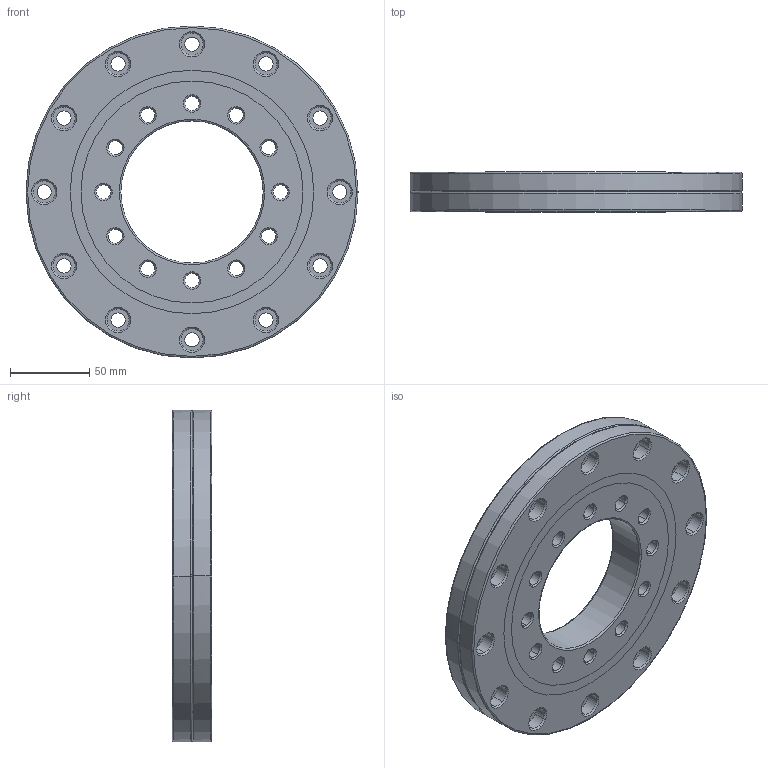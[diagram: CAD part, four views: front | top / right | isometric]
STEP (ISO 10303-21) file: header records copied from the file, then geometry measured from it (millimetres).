
FILE_DESCRIPTION(('no description'),'unknown implementation level');
FILE_NAME('CRBD09025C_47.stp',' ',('HIWIN GmbH'),('CADClick - KiM GmbH - www.kimweb.de'),'unknown preprocess','ACIS','unknown authorization');
FILE_SCHEMA(('automotive_design'));
Length unit declared in the file: millimetre
Products named in the file (5): CRBD09025C_1; CRBD09025C_2; CRBD09025C_3; CRBD09025C_4; CRBD09025C
Bounding box: 210 x 25 x 210 mm (x, y, z)
Volume: 577637.7 mm3; surface area: 156876.1 mm2
Topology: 5 solids, 5 shells, 462 faces, 1128 edges, 700 vertices
Faces by surface type: cone 264, cylinder 140, plane 34, torus 24
Entity records: 26904 total; most frequent: DIRECTION 2786, STYLED_ITEM 2295, PRESENTATION_STYLE_ASSIGNMENT 2295, CARTESIAN_POINT 2295, COLOUR_RGB 2295, ORIENTED_EDGE 2256, AXIS2_PLACEMENT_3D 1191, EDGE_CURVE 1128
